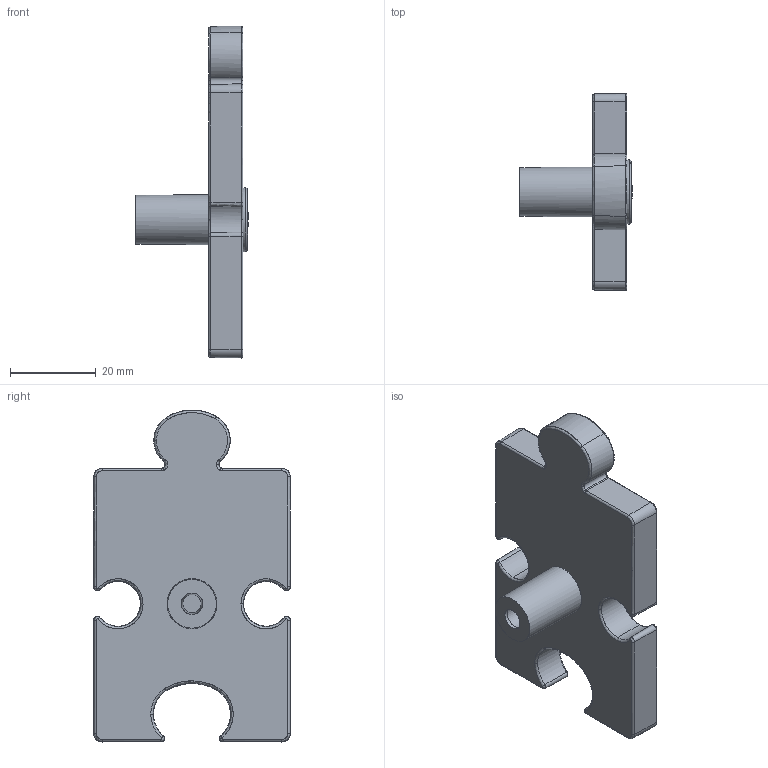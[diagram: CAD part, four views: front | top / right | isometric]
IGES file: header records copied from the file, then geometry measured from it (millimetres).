
Start section: C
Global section: file name: 8131-78.igs; native system: By Siemens PLM Incorporated; preprocessor: XPlus GENERIC/IGES 16.0.42; author: Author; organization: Title; date: 20231122.134659; units: millimetre
Bounding box: 26.2 x 45.99 x 77.59 mm (x, y, z)
Surface area: 10664.6 mm2 (no closed solid volume)
Topology: 0 solids, 0 shells, 131 faces, 658 edges, 657 vertices
Faces by surface type: bspline 131
